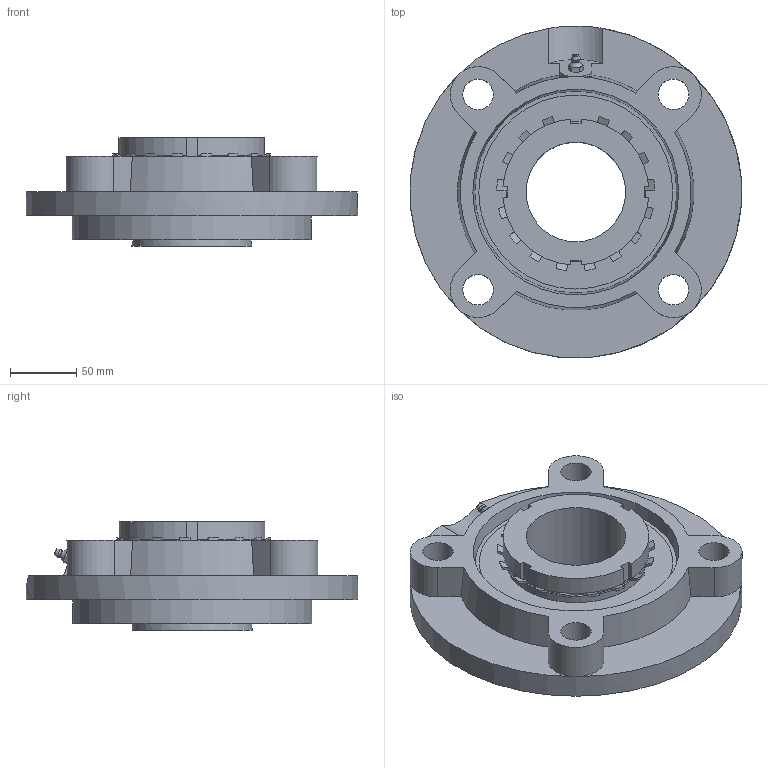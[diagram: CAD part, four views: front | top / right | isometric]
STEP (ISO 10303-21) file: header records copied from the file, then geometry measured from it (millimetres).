
FILE_DESCRIPTION((''),'2;1');
FILE_NAME('\\Ts-tgl068\j-cad-d-base\00.3DCADデータ作成フォルダ\02.フランジ形\UKFC200\UKFC217+H.stp','2014-11-20T16:43:21',('btec_1106_2'),(''),'Autodesk Inventor 2012','Autodesk Inventor 2012','');
FILE_SCHEMA(('AUTOMOTIVE_DESIGN { 1 0 10303 214 1 1 1 1 }'));
Length unit declared in the file: millimetre
Products named in the file (4): UKFC200+H; FC217; UK217; G1
Assembly tree (3 placements, depth 2):
  UKFC200+H
    FC217
    UK217
    G1
Bounding box: 249.71 x 249.8 x 82 mm (x, y, z)
Volume: 1516759.8 mm3; surface area: 235025.4 mm2
Topology: 3 solids, 3 shells, 208 faces, 530 edges, 337 vertices
Faces by surface type: plane 92, cylinder 54, cone 54, sphere 4, bspline 2, torus 2
Full cylindrical faces by diameter (mm): 8.566 x1, 9.728 x1, 23 x4, 75 x1, 85 x1, 105 x2, 180 x1, 250 x1
Entity records: 6228 total; most frequent: CARTESIAN_POINT 1381, ORIENTED_EDGE 998, DIRECTION 989, EDGE_CURVE 499, AXIS2_PLACEMENT_3D 399, VERTEX_POINT 325, EDGE_LOOP 254, FACE_OUTER_BOUND 208
